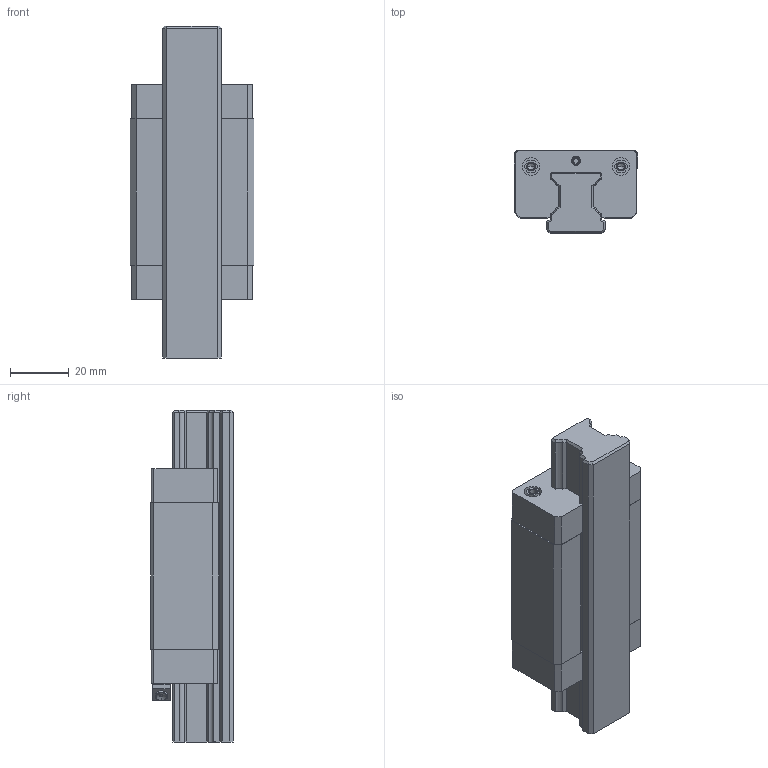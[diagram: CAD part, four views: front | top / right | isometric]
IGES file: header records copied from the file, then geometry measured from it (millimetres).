
Start section: 3D InterOp IGES (v. 2019 1.0.2), Spatial Corp. Copyright (c) 1999-2017.
Global section: file name: R1694_size20.igs; native system: Spatial Corp.; preprocessor: 3D InterOp GENERIC/IGES 3.0; author: Noname; organization: Noname; date: 20220629.125036; units: millimetre
Bounding box: 42 x 28 x 112.7 mm (x, y, z)
Surface area: 30968.3 mm2 (no closed solid volume)
Topology: 0 solids, 0 shells, 308 faces, 1628 edges, 1616 vertices
Faces by surface type: extrusion 177, revolution 131
